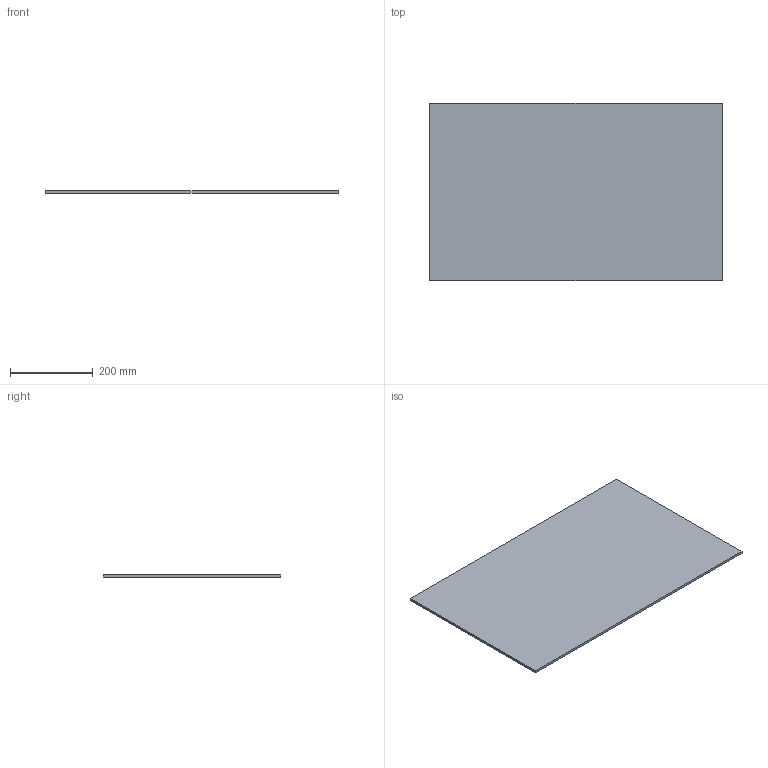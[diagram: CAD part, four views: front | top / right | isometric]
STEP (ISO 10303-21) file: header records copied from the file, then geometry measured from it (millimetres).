
FILE_DESCRIPTION (( 'STEP AP214' ), '1' );
FILE_NAME ('Lochblech_NL450_KAB800_16.step', '2010-10-11T13:38:27', ( 'grass' ), ( '' ), 'SwSTEP 2.0', 'SolidWorks 2010', '' );
FILE_SCHEMA (( 'AUTOMOTIVE_DESIGN' ));
Length unit declared in the file: millimetre
Products named in the file (1): Lochblech_NL450_KAB800_16
Bounding box: 708 x 429 x 6 mm (x, y, z)
Volume: 1822392 mm3; surface area: 621108 mm2
Topology: 1 solids, 1 shells, 6 faces, 12 edges, 8 vertices
Faces by surface type: plane 6
Entity records: 190 total; most frequent: CARTESIAN_POINT 27, DIRECTION 26, ORIENTED_EDGE 24, EDGE_CURVE 12, LINE 12, VECTOR 12, VERTEX_POINT 8, AXIS2_PLACEMENT_3D 7
